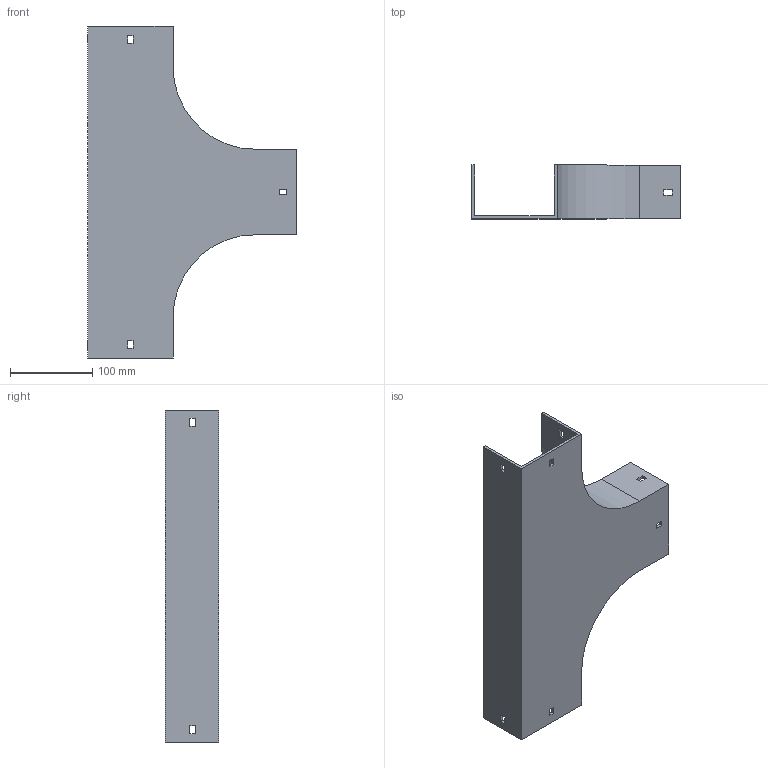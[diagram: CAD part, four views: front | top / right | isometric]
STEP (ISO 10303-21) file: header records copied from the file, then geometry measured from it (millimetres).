
FILE_DESCRIPTION (( 'STEP AP214' ), '1' );
FILE_NAME ('15B1H100.step', '2025-02-21T09:54:39', ( '' ), ( '' ), 'SwSTEP 2.0', 'SolidWorks 2023', '' );
FILE_SCHEMA (( 'AUTOMOTIVE_DESIGN' ));
Length unit declared in the file: millimetre
Products named in the file (1): 15B1H100
Bounding box: 254 x 65.5 x 404 mm (x, y, z)
Volume: 415027.5 mm3; surface area: 243805.6 mm2
Topology: 1 solids, 1 shells, 58 faces, 168 edges, 112 vertices
Faces by surface type: plane 54, cylinder 4
Entity records: 1939 total; most frequent: CARTESIAN_POINT 339, ORIENTED_EDGE 336, DIRECTION 294, EDGE_CURVE 168, VECTOR 160, LINE 160, VERTEX_POINT 112, EDGE_LOOP 76
